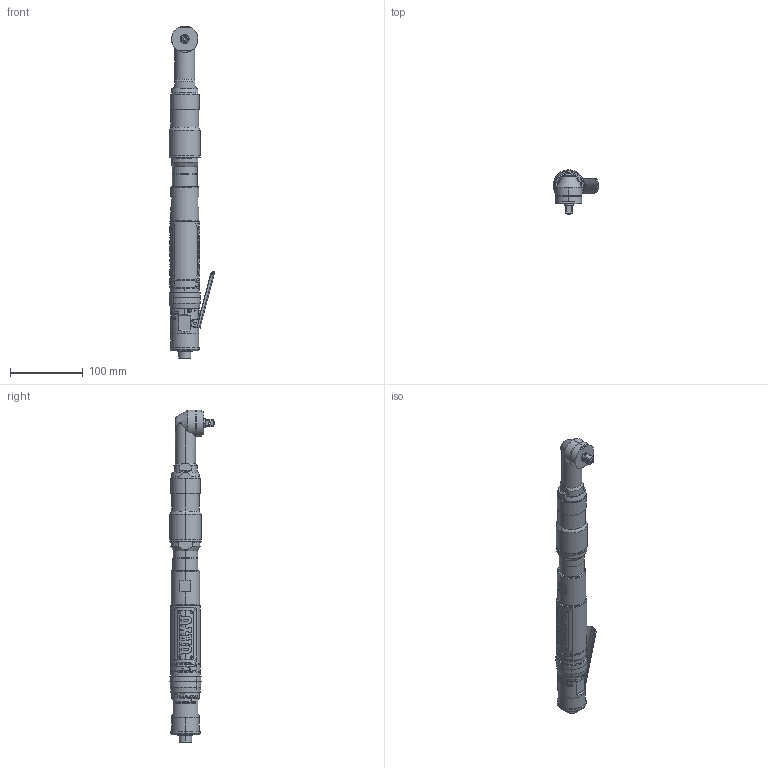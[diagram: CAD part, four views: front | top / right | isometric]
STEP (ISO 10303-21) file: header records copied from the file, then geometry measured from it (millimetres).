
FILE_DESCRIPTION (( 'STEP AP203' ), '1' );
FILE_NAME ('UAN-701R-40C.STEP', '2007-10-26T06:27:49', ( 'gikai-nt16' ), ( ' ' ), 'SwSTEP 2.0', 'SolidWorks 2003240', '' );
FILE_SCHEMA (( 'CONFIG_CONTROL_DESIGN' ));
Length unit declared in the file: millimetre
Products named in the file (10): 2694415_UAN-701R-40C_蹬怮椔; 2591140_UAN-611R-30C_蹬怮椔; 1961077_UAN-701R-30C_蹬怮椔; UAN-701R-40C; 2694306_UAN-701R-40C_蹬怮椔; 2683696_UAN-611R-30C_蹬怮椔; 2680255_UAN-701R-40C_蹬怮椔; 2688405_UAN-701R-30C_蹬怮椔; 2597806_UAN-611R-30C_蹬怮椔; 2682126_UAN-611R-30C_蹬怮椔
Assembly tree (9 placements, depth 2):
  UAN-701R-40C
    2688405_UAN-701R-30C_蹬怮椔
    2591140_UAN-611R-30C_蹬怮椔
    2683696_UAN-611R-30C_蹬怮椔
    1961077_UAN-701R-30C_蹬怮椔
    2680255_UAN-701R-40C_蹬怮椔
    2694415_UAN-701R-40C_蹬怮椔
    2597806_UAN-611R-30C_蹬怮椔
    2682126_UAN-611R-30C_蹬怮椔
    2694306_UAN-701R-40C_蹬怮椔
Bounding box: 62.88 x 61 x 455.2 mm (x, y, z)
Volume: 511806.3 mm3; surface area: 101191.6 mm2
Topology: 9 solids, 9 shells, 983 faces, 2568 edges, 1689 vertices
Faces by surface type: plane 498, cylinder 357, bspline 75, cone 43, torus 8, sphere 2
Entity records: 39056 total; most frequent: CARTESIAN_POINT 14952, ORIENTED_EDGE 5132, DIRECTION 4388, EDGE_CURVE 2566, VERTEX_POINT 1689, AXIS2_PLACEMENT_3D 1608, VECTOR 1172, LINE 1172
